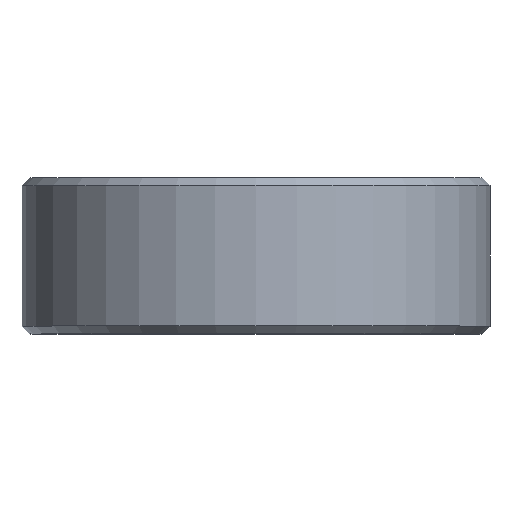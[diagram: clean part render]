
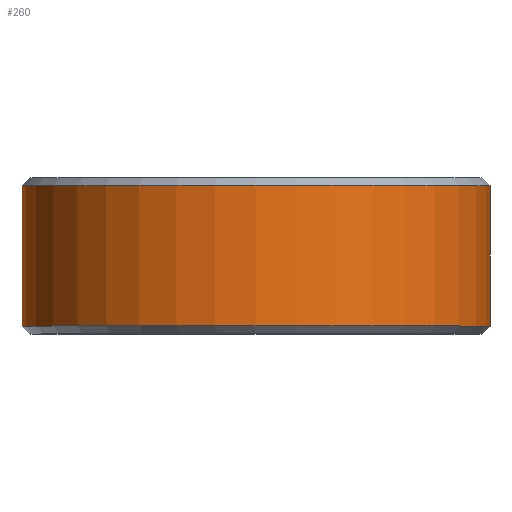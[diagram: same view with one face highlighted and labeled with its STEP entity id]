
A CAD part, top view. The second image highlights one B-rep face of the part: STEP entity #260.
In plain terms, the highlighted cylindrical face has radius 15 mm (diameter 30 mm), a full revolution.
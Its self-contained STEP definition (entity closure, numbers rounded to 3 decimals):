
#260=ADVANCED_FACE('', (#270,#280), #290, .T.);
#880=AXIS2_PLACEMENT_3D('Ax2Pl3d', #890, #900, #910);
#920=AXIS2_PLACEMENT_3D('Ax2Pl3d', #930, #940, #950);
#960=AXIS2_PLACEMENT_3D('Ax2Pl3d', #970, #980, #990);
#890=CARTESIAN_POINT('HicPkt', (140.83,-254.551,
308.714));
#1540=CARTESIAN_POINT('', (140.83,-254.551,323.714));
#930=CARTESIAN_POINT('HicPkt', (140.83,-254.551,
308.714));
#970=CARTESIAN_POINT('HicPkt', (140.83,-263.551,
308.714));
#1550=CARTESIAN_POINT('', (140.83,-263.551,323.714));
#1640=CIRCLE('Circle', #880, 15.);
#1650=CIRCLE('Circle', #960, 15.);
#290=CYLINDRICAL_SURFACE('Zyl', #920, 15.);
#900=DIRECTION('Axis', (0.,1.,0.));
#910=DIRECTION('RefDirection', (0.,
0.,-1.));
#940=DIRECTION('Axis', (0.,-1.,0.))
;
#950=DIRECTION('RefDirection', (0.,
0.,-1.));
#980=DIRECTION('Axis', (0.,-1.,0.))
;
#990=DIRECTION('RefDirection', (0.,
0.,-1.));
#2280=EDGE_CURVE('', #2290, #2290, #1640, .T.);
#2300=EDGE_CURVE('', #2310, #2310, #1650, .T.);
#2560=EDGE_LOOP('Edge_loop', (#2570));
#2580=EDGE_LOOP('Edge_loop', (#2590));
#280=FACE_BOUND('', #2580, .T.);
#270=FACE_OUTER_BOUND('Face_outer_bound', #2560, .T.);
#2570=ORIENTED_EDGE('', *, *, #2280, .F.);
#2590=ORIENTED_EDGE('', *, *, #2300, .F.);
#2290=VERTEX_POINT('', #1540);
#2310=VERTEX_POINT('', #1550);
